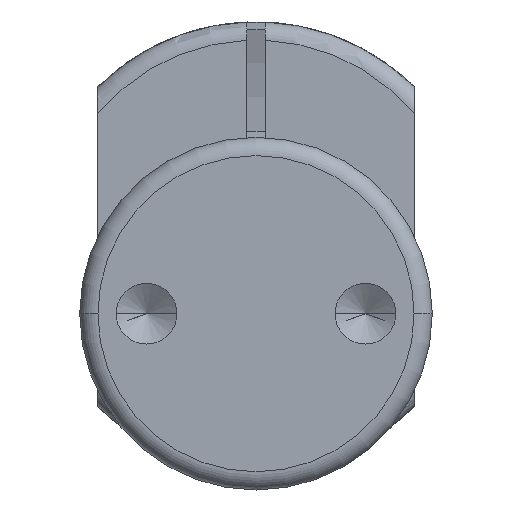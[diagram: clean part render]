
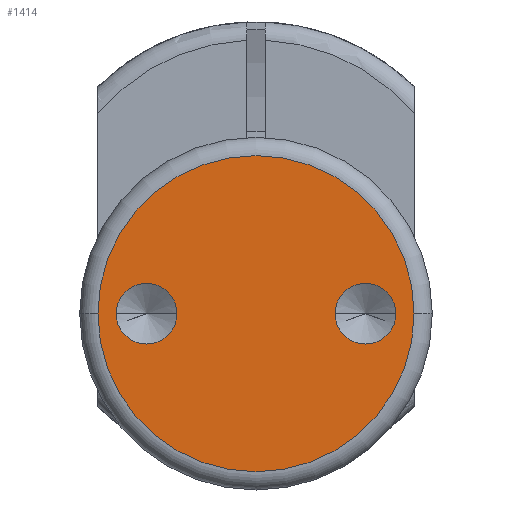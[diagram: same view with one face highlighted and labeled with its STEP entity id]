
A CAD part, front view. The second image highlights one B-rep face of the part: STEP entity #1414.
In plain terms, the highlighted planar face has unit normal (0, -1, 0) as drawn and (1, 0, 0) by its records, which use the part's own axes.
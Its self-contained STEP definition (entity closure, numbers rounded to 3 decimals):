
#19 = ORIENTED_EDGE ( 'NONE', *, *, #1311, .F. ) ;
#194 = DIRECTION ( 'NONE',  ( 0., 0., -1. ) ) ;
#207 = CIRCLE ( 'NONE', #476, 2.5 ) ;
#246 = DIRECTION ( 'NONE',  ( 1., 0., 0. ) ) ;
#266 = CARTESIAN_POINT ( 'NONE',  ( 37., 0., -13. ) ) ;
#411 = CIRCLE ( 'NONE', #2409, 2.5 ) ;
#440 = VERTEX_POINT ( 'NONE', #1829 ) ;
#476 = AXIS2_PLACEMENT_3D ( 'NONE', #3279, #1715, #194 ) ;
#517 = EDGE_CURVE ( 'NONE', #440, #839, #3132, .T. ) ;
#543 = EDGE_LOOP ( 'NONE', ( #19, #1179 ) ) ;
#641 = DIRECTION ( 'NONE',  ( 0., 0., 1. ) ) ;
#644 = DIRECTION ( 'NONE',  ( 0., 0., -1. ) ) ;
#653 = DIRECTION ( 'NONE',  ( 0., 0., 1. ) ) ;
#666 = CIRCLE ( 'NONE', #2938, 2.5 ) ;
#675 = AXIS2_PLACEMENT_3D ( 'NONE', #2726, #2469, #704 ) ;
#704 = DIRECTION ( 'NONE',  ( 0., 0., 1. ) ) ;
#784 = CARTESIAN_POINT ( 'NONE',  ( 37., 0., -11.5 ) ) ;
#813 = VERTEX_POINT ( 'NONE', #2421 ) ;
#839 = VERTEX_POINT ( 'NONE', #266 ) ;
#855 = EDGE_LOOP ( 'NONE', ( #2985, #1801 ) ) ;
#959 = EDGE_CURVE ( 'NONE', #813, #2591, #411, .T. ) ;
#974 = CIRCLE ( 'NONE', #1290, 2.5 ) ;
#1041 = DIRECTION ( 'NONE',  ( 0., 0., -1. ) ) ;
#1137 = FACE_BOUND ( 'NONE', #543, .T. ) ;
#1138 = DIRECTION ( 'NONE',  ( 1., 0., 0. ) ) ;
#1168 = EDGE_CURVE ( 'NONE', #839, #440, #2106, .T. ) ;
#1179 = ORIENTED_EDGE ( 'NONE', *, *, #1988, .F. ) ;
#1236 = DIRECTION ( 'NONE',  ( 1., 0., 0. ) ) ;
#1252 = AXIS2_PLACEMENT_3D ( 'NONE', #2148, #3175, #653 ) ;
#1290 = AXIS2_PLACEMENT_3D ( 'NONE', #3061, #1236, #1554 ) ;
#1311 = EDGE_CURVE ( 'NONE', #2820, #2159, #666, .T. ) ;
#1414 = ADVANCED_FACE ( 'NONE', ( #1137, #2922, #2908 ), #2006, .F. ) ;
#1554 = DIRECTION ( 'NONE',  ( 0., 0., -1. ) ) ;
#1672 = ORIENTED_EDGE ( 'NONE', *, *, #2947, .F. ) ;
#1715 = DIRECTION ( 'NONE',  ( 1., 0., 0. ) ) ;
#1760 = CARTESIAN_POINT ( 'NONE',  ( 37., 0., 9. ) ) ;
#1801 = ORIENTED_EDGE ( 'NONE', *, *, #1168, .T. ) ;
#1829 = CARTESIAN_POINT ( 'NONE',  ( 37., 0., 13. ) ) ;
#1957 = CARTESIAN_POINT ( 'NONE',  ( 37., 0., 6.5 ) ) ;
#1988 = EDGE_CURVE ( 'NONE', #2159, #2820, #974, .T. ) ;
#1995 = CARTESIAN_POINT ( 'NONE',  ( 37., 0., -6.5 ) ) ;
#2006 = PLANE ( 'NONE',  #1252 ) ;
#2106 = CIRCLE ( 'NONE', #675, 13. ) ;
#2135 = CARTESIAN_POINT ( 'NONE',  ( 37., 0., 0. ) ) ;
#2148 = CARTESIAN_POINT ( 'NONE',  ( 37., 14.5, 0. ) ) ;
#2159 = VERTEX_POINT ( 'NONE', #1995 ) ;
#2278 = AXIS2_PLACEMENT_3D ( 'NONE', #2135, #1138, #641 ) ;
#2409 = AXIS2_PLACEMENT_3D ( 'NONE', #1760, #246, #1041 ) ;
#2421 = CARTESIAN_POINT ( 'NONE',  ( 37., 0., 11.5 ) ) ;
#2469 = DIRECTION ( 'NONE',  ( 1., 0., 0. ) ) ;
#2476 = CARTESIAN_POINT ( 'NONE',  ( 37., 0., -9. ) ) ;
#2553 = ORIENTED_EDGE ( 'NONE', *, *, #959, .F. ) ;
#2591 = VERTEX_POINT ( 'NONE', #1957 ) ;
#2726 = CARTESIAN_POINT ( 'NONE',  ( 37., 0., 0. ) ) ;
#2792 = EDGE_LOOP ( 'NONE', ( #1672, #2553 ) ) ;
#2820 = VERTEX_POINT ( 'NONE', #784 ) ;
#2908 = FACE_OUTER_BOUND ( 'NONE', #855, .T. ) ;
#2922 = FACE_BOUND ( 'NONE', #2792, .T. ) ;
#2938 = AXIS2_PLACEMENT_3D ( 'NONE', #2476, #3195, #644 ) ;
#2947 = EDGE_CURVE ( 'NONE', #2591, #813, #207, .T. ) ;
#2985 = ORIENTED_EDGE ( 'NONE', *, *, #517, .T. ) ;
#3061 = CARTESIAN_POINT ( 'NONE',  ( 37., 0., -9. ) ) ;
#3132 = CIRCLE ( 'NONE', #2278, 13. ) ;
#3175 = DIRECTION ( 'NONE',  ( -1., 0., 0. ) ) ;
#3195 = DIRECTION ( 'NONE',  ( 1., 0., 0. ) ) ;
#3279 = CARTESIAN_POINT ( 'NONE',  ( 37., 0., 9. ) ) ;
